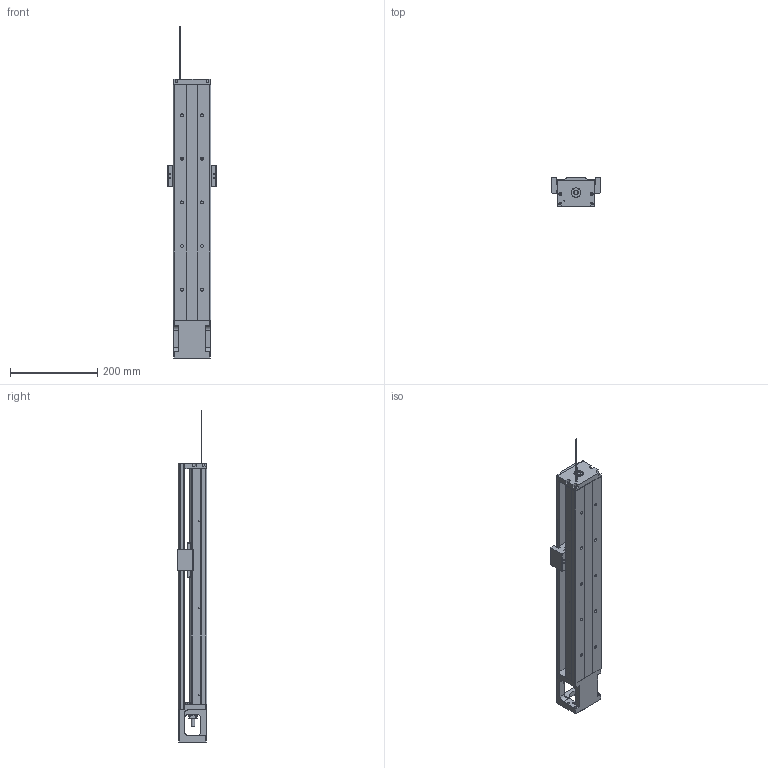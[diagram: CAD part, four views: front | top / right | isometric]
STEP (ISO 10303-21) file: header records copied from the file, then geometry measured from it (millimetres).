
FILE_DESCRIPTION(/* description */ (''),/* implementation_level */ '2;1');
FILE_NAME(/* name */ '46S-540C.stp',/* time_stamp */ '2016-12-20T14:06:48+08:00',/* author */ (''),/* organization */ (''),/* preprocessor_version */ 'ST-DEVELOPER v11',/* originating_system */ 'SIEMENS UGS NX 6.0',/* authorisation */ '');
FILE_SCHEMA (('AUTOMOTIVE_DESIGN { 1 0 10303 214 1 1 1 1 }'));
Length unit declared in the file: millimetre
Products named in the file (1): model4
Bounding box: 112 x 68 x 761.89 mm (x, y, z)
Volume: 1652130.6 mm3; surface area: 424680.3 mm2
Topology: 7 solids, 18 shells, 697 faces, 1829 edges, 1211 vertices
Faces by surface type: plane 337, cylinder 250, cone 55, bspline 47, torus 8
Full cylindrical faces by diameter (mm): 2 x2, 2.11 x2, 2.15 x6, 2.42 x6, 2.5 x4, 3 x4, 3.2 x4, 3.3 x12, 3.4 x8, 4 x6, 4.2 x4, 4.5 x8, 5 x8, 6 x8, 6.35 x2, 6.6 x10, 6.7 x2, 8 x1, 8.7 x4, 9.6 x1, 10 x3, 11 x10, 12 x1, 14.95 x2, 15 x1, 16 x2, 22 x3, 27.5 x1, 44 x1, 50 x1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
Entity records: 31724 total; most frequent: CARTESIAN_POINT 13071, ORIENTED_EDGE 3162, DIRECTION 3071, EDGE_CURVE 1581, VERTEX_POINT 1137, AXIS2_PLACEMENT_3D 1134, EDGE_LOOP 980, LINE 803
